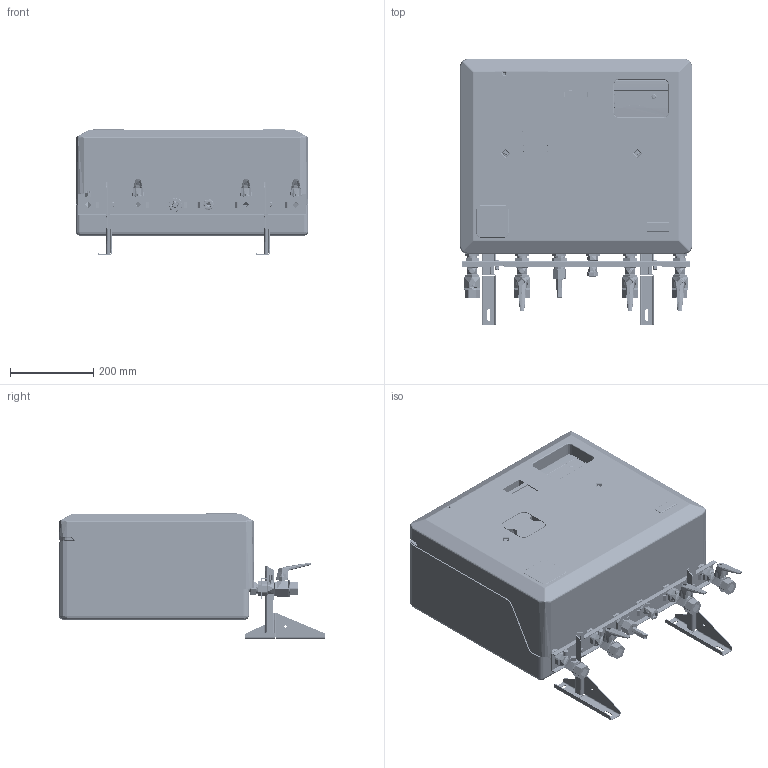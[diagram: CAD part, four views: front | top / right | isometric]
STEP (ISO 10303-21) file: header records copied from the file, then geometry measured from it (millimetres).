
FILE_DESCRIPTION(/* description */ (''),/* implementation_level */ '2;1');
FILE_NAME(/* name */ 'C:\Vault\Designs\HIUs\HSF\Split HIU\SPLIT Unit Complete.stp',/* time_stamp */ '2017-12-08T11:54:10+00:00',/* author */ ('jason.lawrence'),/* organization */ (''),/* preprocessor_version */ 'ST-DEVELOPER v16.1',/* originating_system */ 'Autodesk Inventor 2016',/* authorisation */ '');
FILE_SCHEMA (('CONFIG_CONTROL_DESIGN'));
Products named in the file (138): 51527; Wilo huis YP130DN15; Wilo Yonos PARA F14 L32; Knop; Bout; 51842; 51890; 51890-3; 51890-2; 51890-1; 51890_1; 51891; 37022; 51476; 51891_1; 51878; 91101; 47713; 51864; 40078_gemonteerd; 36969_GEMONTEERD; 91102; 47714; 52816; 41217; ITW set NUON - Leiding draaideel aangepast; 52816_1; 52817.1; 52817.2; 52817 Prototype; 52818.1; 52818.2; 52818; 52819; 59146; 52819_1; 51992; 52820; 33841; 52820_1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
Assembly tree (231 placements, depth 4):
  2016-06-01 Split Unit
    51527  x2
    51842
      Wilo huis YP130DN15
      Wilo Yonos PARA F14 L32
      Knop
      Bout  x4
    51890_1
      51890
      51890-3
      51890-2
      51890-1
    59198  x2
    51891_1
      51891
      51890-3
      37022
      51476
      51890-2
      51890-1
    51878
    47713  x2
    51864
    91101
    40078_gemonteerd  x21
    36969_GEMONTEERD  x2
    91102  x2
    47714  x2
    52816_1
      52816
      41217  x2
      ITW set NUON - Leiding draaideel aangepast
    52817 Prototype
      52817.1
      52817.2
      41217  x3
    52818
      52818.1
      52818.2
      41217  x3
    52819_1
      52819
      41217  x2
      59146
    52820_1
      51992
      52820
      33841
      41217
    52821_1
      52821
      41217  x2
      ITW set NUON - Leiding draaideel aangepast
    52822_1
      52822
      41217  x2
    52823_1
      52823
      41217  x2
      Grundfos draaideel
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Bounding box: 560 x 641.9 x 303.24 mm (x, y, z)
Topology: 258 solids, 279 shells, 20841 faces, 51437 edges, 31050 vertices
Faces by surface type: plane 7006, cylinder 6715, bspline 3212, torus 2134, cone 1153, sphere 621
Full cylindrical faces by diameter (mm): 0.2 x2, 0.408 x1, 0.498 x1, 0.5 x6, 0.542 x1, 0.605 x1, 0.608 x1, 0.698 x1, 0.7 x6, 0.742 x1, 0.805 x1, 0.832 x1, 1 x2, 1.032 x1, 1.2 x1, 1.5 x1, 1.572 x1, 1.8 x8, 2.2 x4, 2.5 x6, 3 x10, 3.2 x1, 3.4 x8, 3.5 x5, 3.57 x4, 3.6 x1, 4 x18, 4.2 x4, 4.3 x7, 4.4 x10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
Entity records: 708834 total; most frequent: CARTESIAN_POINT 332172, ORIENTED_EDGE 78355, DIRECTION 76605, EDGE_CURVE 39246, AXIS2_PLACEMENT_3D 29897, VERTEX_POINT 24251, EDGE_LOOP 18398, LINE 16811
